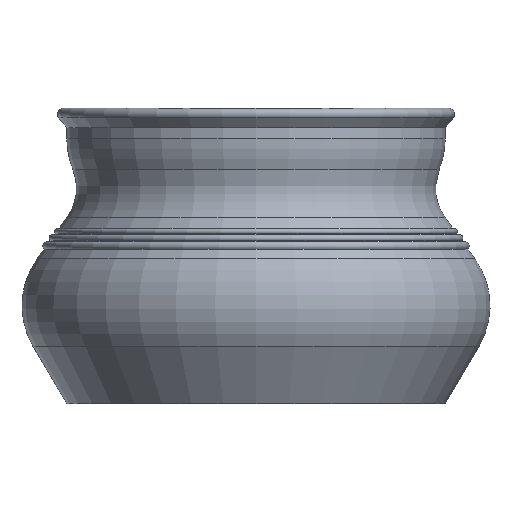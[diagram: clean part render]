
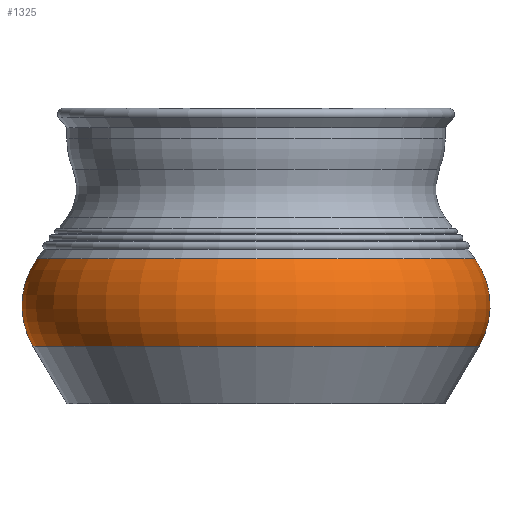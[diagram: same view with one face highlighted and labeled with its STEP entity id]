
A CAD part, front view. The second image highlights one B-rep face of the part: STEP entity #1325.
In plain terms, the highlighted toroidal (fillet/blend) face has major radius 130.473 mm and minor radius 67.527 mm.
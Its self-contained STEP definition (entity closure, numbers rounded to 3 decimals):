
#22=TOROIDAL_SURFACE('',#1505,130.473,67.527);
#166=FACE_OUTER_BOUND('',#284,.T.);
#284=EDGE_LOOP('',(#1208,#1209,#1210,#1211));
#526=CIRCLE('',#1467,188.68);
#549=CIRCLE('',#1506,185.242);
#550=CIRCLE('',#1507,67.527);
#653=VERTEX_POINT('',#2240);
#669=VERTEX_POINT('',#2303);
#818=EDGE_CURVE('',#653,#653,#526,.T.);
#849=EDGE_CURVE('',#669,#669,#549,.T.);
#850=EDGE_CURVE('',#669,#653,#550,.T.);
#1208=ORIENTED_EDGE('',*,*,#849,.F.);
#1209=ORIENTED_EDGE('',*,*,#850,.T.);
#1210=ORIENTED_EDGE('',*,*,#818,.T.);
#1211=ORIENTED_EDGE('',*,*,#850,.F.);
#1325=ADVANCED_FACE('',(#166),#22,.T.);
#1467=AXIS2_PLACEMENT_3D('',#2241,#1837,#1838);
#1505=AXIS2_PLACEMENT_3D('',#2302,#1921,#1922);
#1506=AXIS2_PLACEMENT_3D('',#2304,#1923,#1924);
#1507=AXIS2_PLACEMENT_3D('',#2305,#1925,#1926);
#1837=DIRECTION('center_axis',(0.,0.,1.));
#1838=DIRECTION('ref_axis',(1.,0.,0.));
#1921=DIRECTION('center_axis',(0.,0.,1.));
#1922=DIRECTION('ref_axis',(1.,0.,0.));
#1923=DIRECTION('center_axis',(0.,0.,1.));
#1924=DIRECTION('ref_axis',(1.,0.,0.));
#1925=DIRECTION('center_axis',(0.,-1.,0.));
#1926=DIRECTION('ref_axis',(-1.,0.,0.));
#2240=CARTESIAN_POINT('',(-188.68,0.,48.768));
#2241=CARTESIAN_POINT('Origin',(0.,0.,48.768));
#2302=CARTESIAN_POINT('Origin',(0.,0.,83.));
#2303=CARTESIAN_POINT('',(-185.242,0.,122.5));
#2304=CARTESIAN_POINT('Origin',(0.,0.,122.5));
#2305=CARTESIAN_POINT('Origin',(-130.473,0.,
83.));
